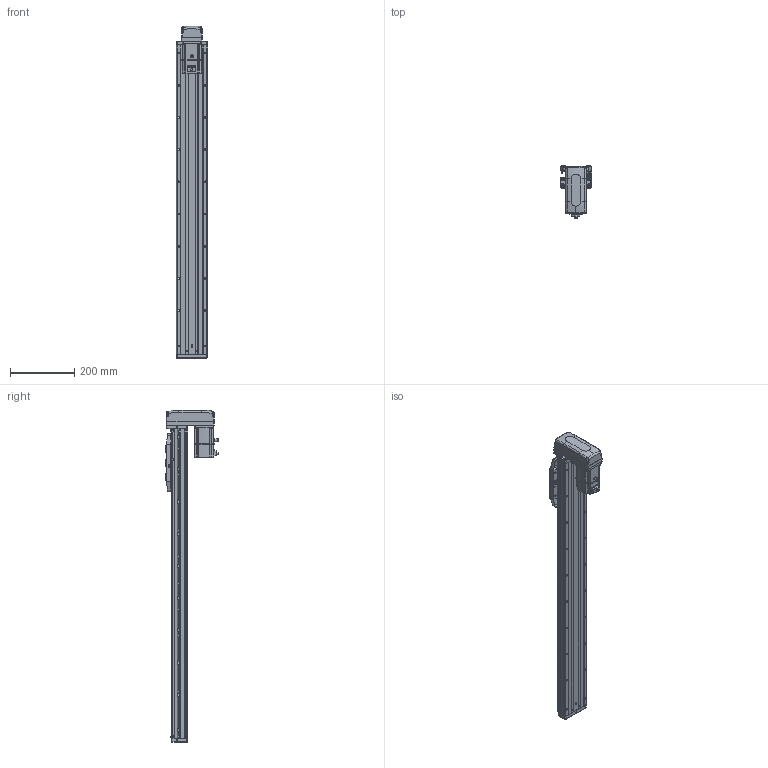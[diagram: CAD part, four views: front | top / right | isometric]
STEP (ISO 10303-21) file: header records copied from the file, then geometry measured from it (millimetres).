
FILE_DESCRIPTION (( 'STEP AP203' ), '1' );
FILE_NAME ('CTHA100-750-BM-M20-C4L.step', '2022-07-06T09:05:15', ( '微软用户' ), ( '微软中国' ), 'SwSTEP 2.0', 'SolidWorks 2020', '' );
FILE_SCHEMA (( 'CONFIG_CONTROL_DESIGN' ));
Length unit declared in the file: millimetre
Products named in the file (19): CTHA60-017; CTHA100-002; CTHA60-021; CTHA100-031; KTHA100-001_960; GBT77-2000 M3×3; CTHA86-030; KTHA100-004; GBT 70.1-M3℅6; GBT 70.3-M3℅6; KTHA100-005; GBT70.1 M5℅16; CTHA86-015-1_CTHA86-015-2; GB¨uT 70.2-M3¡Á5_M3¡Á6; CTHA60-016; CTHA86-033; EE_SX911P_R; _X2_4E0983F1_X0_200W_1; CTHA100-750-BM-M20-C4L
Assembly tree (64 placements, depth 2):
  CTHA100-750-BM-M20-C4L
    KTHA100-001_960
    KTHA100-004
    KTHA100-005
    GB¨uT 70.2-M3¡Á5_M3¡Á6  x10
    EE_SX911P_R  x3
    CTHA60-017  x3
    CTHA60-021  x2
    GBT77-2000 M3×3  x6
    GBT 70.1-M3℅6  x10
    GBT70.1 M5℅16  x14
    CTHA60-016  x2
    _X2_4E0983F1_X0_200W_1
    CTHA100-002
    CTHA100-031
    CTHA86-030  x2
    GBT 70.3-M3℅6  x4
    CTHA86-015-1_CTHA86-015-2
    CTHA86-033
Bounding box: 98.82 x 163.2 x 1031 mm (x, y, z)
Volume: 4248510.8 mm3; surface area: 711663.7 mm2
Topology: 66 solids, 66 shells, 2709 faces, 6527 edges, 4048 vertices
Faces by surface type: plane 1416, cylinder 713, cone 357, torus 124, bspline 75, sphere 24
Entity records: 47284 total; most frequent: CARTESIAN_POINT 9259, DIRECTION 7314, ORIENTED_EDGE 7170, EDGE_CURVE 3585, AXIS2_PLACEMENT_3D 2475, LINE 2364, VECTOR 2364, VERTEX_POINT 2268
